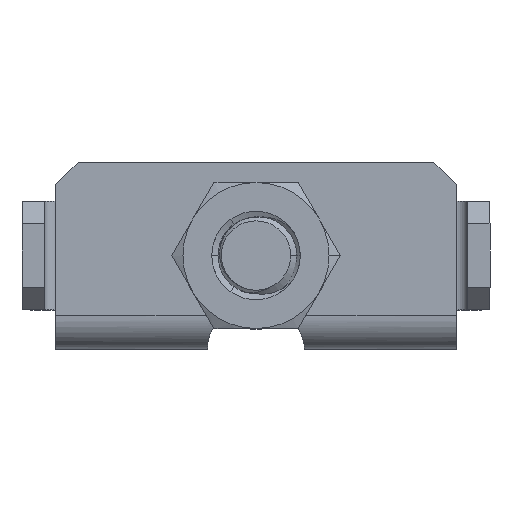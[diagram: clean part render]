
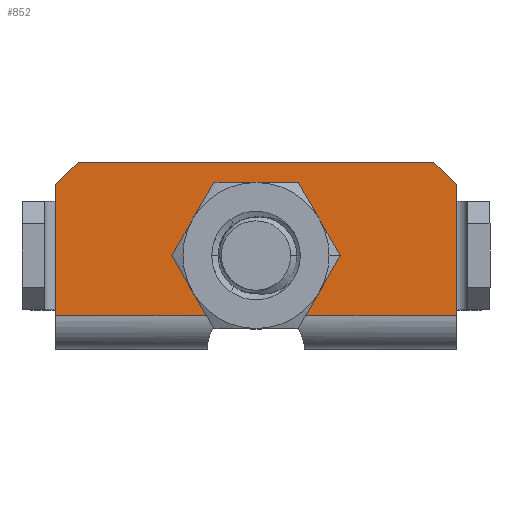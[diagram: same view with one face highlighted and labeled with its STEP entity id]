
A CAD part, top view. The second image highlights one B-rep face of the part: STEP entity #852.
In plain terms, the highlighted planar face has unit normal (0, 0, 1).
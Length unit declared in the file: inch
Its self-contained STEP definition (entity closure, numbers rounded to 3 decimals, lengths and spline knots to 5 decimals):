
#181 = LINE ( 'NONE', #5896, #6658 ) ;
#202 = DIRECTION ( 'NONE',  ( 0., -1., 0. ) ) ;
#278 = LINE ( 'NONE', #3054, #5312 ) ;
#302 = EDGE_LOOP ( 'NONE', ( #4886, #4183, #4883, #6575, #5423, #550, #1200, #5564, #464, #4367, #5134, #901 ) ) ;
#464 = ORIENTED_EDGE ( 'NONE', *, *, #2830, .F. ) ;
#544 = VECTOR ( 'NONE', #1507, 39.37008 ) ;
#550 = ORIENTED_EDGE ( 'NONE', *, *, #3605, .F. ) ;
#582 = CARTESIAN_POINT ( 'NONE',  ( -0.535, 0.395, 0.0898 ) ) ;
#657 = LINE ( 'NONE', #7121, #4555 ) ;
#671 = CARTESIAN_POINT ( 'NONE',  ( 0., 0.375, 0.0898 ) ) ;
#762 = FACE_BOUND ( 'NONE', #3946, .T. ) ;
#803 = DIRECTION ( 'NONE',  ( 0., -1., 0. ) ) ;
#852 = ADVANCED_FACE ( 'NONE', ( #762, #5951 ), #3043, .T. ) ;
#901 = ORIENTED_EDGE ( 'NONE', *, *, #6450, .F. ) ;
#929 = CARTESIAN_POINT ( 'NONE',  ( 0., 0.0898, 0.0898 ) ) ;
#1025 = DIRECTION ( 'NONE',  ( 0., 1., 0. ) ) ;
#1027 = CIRCLE ( 'NONE', #6431, 0.125 ) ;
#1032 = DIRECTION ( 'NONE',  ( 0., 1., 0. ) ) ;
#1041 = CARTESIAN_POINT ( 'NONE',  ( 0., 0.25, 0.0898 ) ) ;
#1064 = CARTESIAN_POINT ( 'NONE',  ( -0.4875, 0.4875, 0.0898 ) ) ;
#1174 = VERTEX_POINT ( 'NONE', #4126 ) ;
#1200 = ORIENTED_EDGE ( 'NONE', *, *, #5638, .F. ) ;
#1241 = AXIS2_PLACEMENT_3D ( 'NONE', #5336, #4212, #803 ) ;
#1507 = DIRECTION ( 'NONE',  ( -0.707, 0.707, 0. ) ) ;
#1805 = EDGE_CURVE ( 'NONE', #6734, #5302, #3362, .T. ) ;
#1830 = DIRECTION ( 'NONE',  ( -1., 0., 0. ) ) ;
#1868 = DIRECTION ( 'NONE',  ( 1., 0., 0. ) ) ;
#1873 = VERTEX_POINT ( 'NONE', #5373 ) ;
#1918 = EDGE_CURVE ( 'NONE', #4800, #4871, #657, .T. ) ;
#1983 = VERTEX_POINT ( 'NONE', #7311 ) ;
#2000 = CARTESIAN_POINT ( 'NONE',  ( 0.535, 0.44, 0.0898 ) ) ;
#2031 = LINE ( 'NONE', #4330, #4488 ) ;
#2095 = VECTOR ( 'NONE', #6172, 39.37008 ) ;
#2103 = LINE ( 'NONE', #7385, #3903 ) ;
#2104 = VECTOR ( 'NONE', #6235, 39.37008 ) ;
#2323 = CARTESIAN_POINT ( 'NONE',  ( 0.535, 0.0898, 0.0898 ) ) ;
#2561 = CARTESIAN_POINT ( 'NONE',  ( 0.535, 0.395, 0.0898 ) ) ;
#2588 = VERTEX_POINT ( 'NONE', #4766 ) ;
#2676 = CARTESIAN_POINT ( 'NONE',  ( 0., 0.25, 0.0898 ) ) ;
#2773 = ORIENTED_EDGE ( 'NONE', *, *, #1805, .T. ) ;
#2830 = EDGE_CURVE ( 'NONE', #7060, #2588, #6882, .T. ) ;
#3043 = PLANE ( 'NONE',  #1241 ) ;
#3054 = CARTESIAN_POINT ( 'NONE',  ( 0.535, 0.0598, 0.0898 ) ) ;
#3271 = DIRECTION ( 'NONE',  ( -0.707, -0.707, 0. ) ) ;
#3362 = CIRCLE ( 'NONE', #3969, 0.125 ) ;
#3493 = VERTEX_POINT ( 'NONE', #7115 ) ;
#3575 = EDGE_CURVE ( 'NONE', #4556, #5291, #2103, .T. ) ;
#3605 = EDGE_CURVE ( 'NONE', #1174, #4556, #3915, .T. ) ;
#3613 = LINE ( 'NONE', #2561, #6687 ) ;
#3817 = LINE ( 'NONE', #929, #6539 ) ;
#3903 = VECTOR ( 'NONE', #1025, 39.37008 ) ;
#3915 = LINE ( 'NONE', #4397, #2095 ) ;
#3940 = CARTESIAN_POINT ( 'NONE',  ( 0., 0.0898, 0.0898 ) ) ;
#3946 = EDGE_LOOP ( 'NONE', ( #2773, #3977 ) ) ;
#3969 = AXIS2_PLACEMENT_3D ( 'NONE', #1041, #5084, #7362 ) ;
#3977 = ORIENTED_EDGE ( 'NONE', *, *, #6222, .T. ) ;
#4126 = CARTESIAN_POINT ( 'NONE',  ( -0.535, 0.105, 0.0898 ) ) ;
#4183 = ORIENTED_EDGE ( 'NONE', *, *, #5848, .T. ) ;
#4212 = DIRECTION ( 'NONE',  ( 0., 0., 1. ) ) ;
#4330 = CARTESIAN_POINT ( 'NONE',  ( -0.535, 0.5, 0.0898 ) ) ;
#4367 = ORIENTED_EDGE ( 'NONE', *, *, #4843, .T. ) ;
#4397 = CARTESIAN_POINT ( 'NONE',  ( -0.535, 0.105, 0.0898 ) ) ;
#4401 = EDGE_CURVE ( 'NONE', #3493, #6428, #181, .T. ) ;
#4488 = VECTOR ( 'NONE', #7166, 39.37008 ) ;
#4519 = VERTEX_POINT ( 'NONE', #6692 ) ;
#4555 = VECTOR ( 'NONE', #6976, 39.37008 ) ;
#4556 = VERTEX_POINT ( 'NONE', #582 ) ;
#4717 = EDGE_CURVE ( 'NONE', #1873, #1983, #278, .T. ) ;
#4766 = CARTESIAN_POINT ( 'NONE',  ( -0.066, 0.0898, 0.0898 ) ) ;
#4800 = VERTEX_POINT ( 'NONE', #2000 ) ;
#4843 = EDGE_CURVE ( 'NONE', #7060, #1983, #3817, .T. ) ;
#4871 = VERTEX_POINT ( 'NONE', #6037 ) ;
#4883 = ORIENTED_EDGE ( 'NONE', *, *, #4401, .F. ) ;
#4886 = ORIENTED_EDGE ( 'NONE', *, *, #1918, .F. ) ;
#4913 = LINE ( 'NONE', #7265, #544 ) ;
#5005 = LINE ( 'NONE', #1064, #5937 ) ;
#5084 = DIRECTION ( 'NONE',  ( 0., 0., -1. ) ) ;
#5134 = ORIENTED_EDGE ( 'NONE', *, *, #4717, .F. ) ;
#5291 = VERTEX_POINT ( 'NONE', #5351 ) ;
#5302 = VERTEX_POINT ( 'NONE', #6460 ) ;
#5312 = VECTOR ( 'NONE', #202, 39.37008 ) ;
#5333 = CARTESIAN_POINT ( 'NONE',  ( 0.475, 0.5, 0.0898 ) ) ;
#5336 = CARTESIAN_POINT ( 'NONE',  ( 0., 0., 0.0898 ) ) ;
#5351 = CARTESIAN_POINT ( 'NONE',  ( -0.535, 0.44, 0.0898 ) ) ;
#5373 = CARTESIAN_POINT ( 'NONE',  ( 0.535, 0.105, 0.0898 ) ) ;
#5423 = ORIENTED_EDGE ( 'NONE', *, *, #3575, .F. ) ;
#5564 = ORIENTED_EDGE ( 'NONE', *, *, #6645, .T. ) ;
#5638 = EDGE_CURVE ( 'NONE', #4519, #1174, #2031, .T. ) ;
#5848 = EDGE_CURVE ( 'NONE', #4800, #6428, #4913, .T. ) ;
#5866 = DIRECTION ( 'NONE',  ( 0., -1., 0. ) ) ;
#5896 = CARTESIAN_POINT ( 'NONE',  ( 0.535, 0.5, 0.0898 ) ) ;
#5937 = VECTOR ( 'NONE', #3271, 39.37008 ) ;
#5951 = FACE_OUTER_BOUND ( 'NONE', #302, .T. ) ;
#6037 = CARTESIAN_POINT ( 'NONE',  ( 0.535, 0.395, 0.0898 ) ) ;
#6040 = VECTOR ( 'NONE', #1830, 39.37008 ) ;
#6087 = CARTESIAN_POINT ( 'NONE',  ( 0.066, 0.0898, 0.0898 ) ) ;
#6112 = DIRECTION ( 'NONE',  ( 1., 0., 0. ) ) ;
#6172 = DIRECTION ( 'NONE',  ( 0., 1., 0. ) ) ;
#6182 = EDGE_CURVE ( 'NONE', #3493, #5291, #5005, .T. ) ;
#6222 = EDGE_CURVE ( 'NONE', #5302, #6734, #1027, .T. ) ;
#6235 = DIRECTION ( 'NONE',  ( 1., 0., 0. ) ) ;
#6428 = VERTEX_POINT ( 'NONE', #5333 ) ;
#6431 = AXIS2_PLACEMENT_3D ( 'NONE', #2676, #7278, #1032 ) ;
#6450 = EDGE_CURVE ( 'NONE', #4871, #1873, #3613, .T. ) ;
#6460 = CARTESIAN_POINT ( 'NONE',  ( 0., 0.125, 0.0898 ) ) ;
#6539 = VECTOR ( 'NONE', #6112, 39.37008 ) ;
#6575 = ORIENTED_EDGE ( 'NONE', *, *, #6182, .T. ) ;
#6645 = EDGE_CURVE ( 'NONE', #4519, #2588, #7373, .T. ) ;
#6658 = VECTOR ( 'NONE', #1868, 39.37008 ) ;
#6687 = VECTOR ( 'NONE', #5866, 39.37008 ) ;
#6692 = CARTESIAN_POINT ( 'NONE',  ( -0.535, 0.0898, 0.0898 ) ) ;
#6734 = VERTEX_POINT ( 'NONE', #671 ) ;
#6882 = LINE ( 'NONE', #2323, #6040 ) ;
#6976 = DIRECTION ( 'NONE',  ( 0., -1., 0. ) ) ;
#7060 = VERTEX_POINT ( 'NONE', #6087 ) ;
#7115 = CARTESIAN_POINT ( 'NONE',  ( -0.475, 0.5, 0.0898 ) ) ;
#7121 = CARTESIAN_POINT ( 'NONE',  ( 0.535, 0.0598, 0.0898 ) ) ;
#7166 = DIRECTION ( 'NONE',  ( 0., 1., 0. ) ) ;
#7265 = CARTESIAN_POINT ( 'NONE',  ( 0.4875, 0.4875, 0.0898 ) ) ;
#7278 = DIRECTION ( 'NONE',  ( 0., 0., -1. ) ) ;
#7311 = CARTESIAN_POINT ( 'NONE',  ( 0.535, 0.0898, 0.0898 ) ) ;
#7362 = DIRECTION ( 'NONE',  ( 0., 1., 0. ) ) ;
#7373 = LINE ( 'NONE', #3940, #2104 ) ;
#7385 = CARTESIAN_POINT ( 'NONE',  ( -0.535, 0.5, 0.0898 ) ) ;
